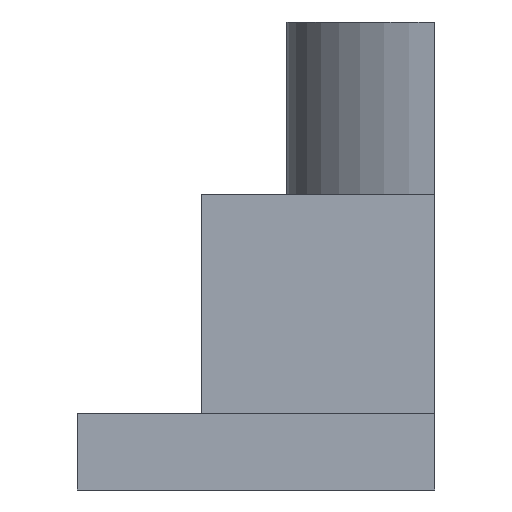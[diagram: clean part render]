
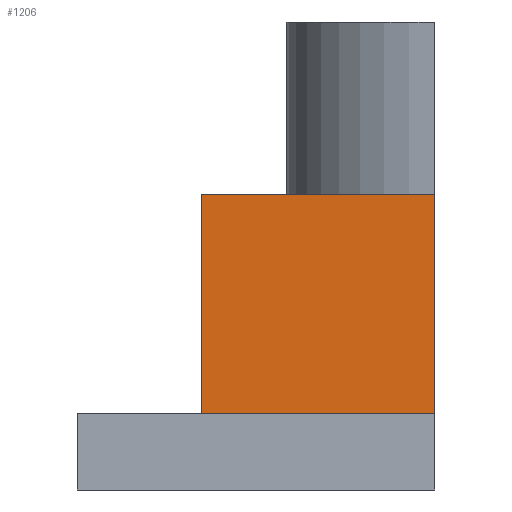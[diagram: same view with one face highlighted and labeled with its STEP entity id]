
A CAD part, left-side view. The second image highlights one B-rep face of the part: STEP entity #1206.
In plain terms, the highlighted planar face has unit normal (-1, 0, 0).
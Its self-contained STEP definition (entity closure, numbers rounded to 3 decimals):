
#44 = PLANE('',#45);
#45 = AXIS2_PLACEMENT_3D('',#46,#47,#48);
#46 = CARTESIAN_POINT('',(-10.75,-20.32,-1.2));
#47 = DIRECTION('',(0.,0.,1.));
#48 = DIRECTION('',(1.,0.,0.));
#71 = PLANE('',#72);
#72 = AXIS2_PLACEMENT_3D('',#73,#74,#75);
#73 = CARTESIAN_POINT('',(-26.75,-16.47,-5.));
#74 = DIRECTION('',(0.,1.,0.));
#75 = DIRECTION('',(0.,0.,1.));
#141 = VERTEX_POINT('',#142);
#142 = CARTESIAN_POINT('',(-8.75,-16.47,-1.2));
#161 = EDGE_CURVE('',#141,#162,#164,.T.);
#162 = VERTEX_POINT('',#163);
#163 = CARTESIAN_POINT('',(-8.75,-14.02,-1.2));
#164 = SURFACE_CURVE('',#165,(#169,#176),.PCURVE_S1.);
#165 = LINE('',#166,#167);
#166 = CARTESIAN_POINT('',(-8.75,-19.02,-1.2));
#167 = VECTOR('',#168,1.);
#168 = DIRECTION('',(0.,1.,0.));
#169 = PCURVE('',#44,#170);
#170 = DEFINITIONAL_REPRESENTATION('',(#171),#175);
#171 = LINE('',#172,#173);
#172 = CARTESIAN_POINT('',(2.,1.3));
#173 = VECTOR('',#174,1.);
#174 = DIRECTION('',(0.,1.));
#175 = ( GEOMETRIC_REPRESENTATION_CONTEXT(2) 
PARAMETRIC_REPRESENTATION_CONTEXT() REPRESENTATION_CONTEXT('2D SPACE',''
  ) );
#176 = PCURVE('',#177,#182);
#177 = PLANE('',#178);
#178 = AXIS2_PLACEMENT_3D('',#179,#180,#181);
#179 = CARTESIAN_POINT('',(-8.75,-19.02,-1.2));
#180 = DIRECTION('',(1.,0.,0.));
#181 = DIRECTION('',(0.,0.,1.));
#182 = DEFINITIONAL_REPRESENTATION('',(#183),#187);
#183 = LINE('',#184,#185);
#184 = CARTESIAN_POINT('',(0.,0.));
#185 = VECTOR('',#186,1.);
#186 = DIRECTION('',(0.,-1.));
#187 = ( GEOMETRIC_REPRESENTATION_CONTEXT(2) 
PARAMETRIC_REPRESENTATION_CONTEXT() REPRESENTATION_CONTEXT('2D SPACE',''
  ) );
#205 = PLANE('',#206);
#206 = AXIS2_PLACEMENT_3D('',#207,#208,#209);
#207 = CARTESIAN_POINT('',(-8.75,-14.02,-1.2));
#208 = DIRECTION('',(0.,1.,0.));
#209 = DIRECTION('',(0.,0.,1.));
#535 = EDGE_CURVE('',#141,#536,#538,.T.);
#536 = VERTEX_POINT('',#537);
#537 = CARTESIAN_POINT('',(-8.75,-16.47,1.1));
#538 = SURFACE_CURVE('',#539,(#543,#549),.PCURVE_S1.);
#539 = LINE('',#540,#541);
#540 = CARTESIAN_POINT('',(-8.75,-16.47,-3.1));
#541 = VECTOR('',#542,1.);
#542 = DIRECTION('',(0.,0.,1.));
#543 = PCURVE('',#71,#544);
#544 = DEFINITIONAL_REPRESENTATION('',(#545),#548);
#545 = B_SPLINE_CURVE_WITH_KNOTS('',1,(#546,#547),.UNSPECIFIED.,.F.,.F.,
  (2,2),(1.9,4.2),.PIECEWISE_BEZIER_KNOTS.);
#546 = CARTESIAN_POINT('',(3.8,18.));
#547 = CARTESIAN_POINT('',(6.1,18.));
#548 = ( GEOMETRIC_REPRESENTATION_CONTEXT(2) 
PARAMETRIC_REPRESENTATION_CONTEXT() REPRESENTATION_CONTEXT('2D SPACE',''
  ) );
#549 = PCURVE('',#177,#550);
#550 = DEFINITIONAL_REPRESENTATION('',(#551),#554);
#551 = B_SPLINE_CURVE_WITH_KNOTS('',1,(#552,#553),.UNSPECIFIED.,.F.,.F.,
  (2,2),(1.9,4.2),.PIECEWISE_BEZIER_KNOTS.);
#552 = CARTESIAN_POINT('',(0.,-2.55));
#553 = CARTESIAN_POINT('',(2.3,-2.55));
#554 = ( GEOMETRIC_REPRESENTATION_CONTEXT(2) 
PARAMETRIC_REPRESENTATION_CONTEXT() REPRESENTATION_CONTEXT('2D SPACE',''
  ) );
#571 = PLANE('',#572);
#572 = AXIS2_PLACEMENT_3D('',#573,#574,#575);
#573 = CARTESIAN_POINT('',(-8.75,-19.02,1.1));
#574 = DIRECTION('',(0.,0.,1.));
#575 = DIRECTION('',(1.,0.,0.));
#1162 = EDGE_CURVE('',#162,#1163,#1165,.T.);
#1163 = VERTEX_POINT('',#1164);
#1164 = CARTESIAN_POINT('',(-8.75,-14.02,1.1));
#1165 = SURFACE_CURVE('',#1166,(#1170,#1177),.PCURVE_S1.);
#1166 = LINE('',#1167,#1168);
#1167 = CARTESIAN_POINT('',(-8.75,-14.02,-1.2));
#1168 = VECTOR('',#1169,1.);
#1169 = DIRECTION('',(0.,0.,1.));
#1170 = PCURVE('',#205,#1171);
#1171 = DEFINITIONAL_REPRESENTATION('',(#1172),#1176);
#1172 = LINE('',#1173,#1174);
#1173 = CARTESIAN_POINT('',(0.,0.));
#1174 = VECTOR('',#1175,1.);
#1175 = DIRECTION('',(1.,0.));
#1176 = ( GEOMETRIC_REPRESENTATION_CONTEXT(2) 
PARAMETRIC_REPRESENTATION_CONTEXT() REPRESENTATION_CONTEXT('2D SPACE',''
  ) );
#1177 = PCURVE('',#177,#1178);
#1178 = DEFINITIONAL_REPRESENTATION('',(#1179),#1183);
#1179 = LINE('',#1180,#1181);
#1180 = CARTESIAN_POINT('',(0.,-5.));
#1181 = VECTOR('',#1182,1.);
#1182 = DIRECTION('',(1.,0.));
#1183 = ( GEOMETRIC_REPRESENTATION_CONTEXT(2) 
PARAMETRIC_REPRESENTATION_CONTEXT() REPRESENTATION_CONTEXT('2D SPACE',''
  ) );
#1206 = ADVANCED_FACE('',(#1207),#177,.F.);
#1207 = FACE_BOUND('',#1208,.F.);
#1208 = EDGE_LOOP('',(#1209,#1230,#1231,#1232));
#1209 = ORIENTED_EDGE('',*,*,#1210,.F.);
#1210 = EDGE_CURVE('',#536,#1163,#1211,.T.);
#1211 = SURFACE_CURVE('',#1212,(#1216,#1223),.PCURVE_S1.);
#1212 = LINE('',#1213,#1214);
#1213 = CARTESIAN_POINT('',(-8.75,-19.02,1.1));
#1214 = VECTOR('',#1215,1.);
#1215 = DIRECTION('',(0.,1.,0.));
#1216 = PCURVE('',#177,#1217);
#1217 = DEFINITIONAL_REPRESENTATION('',(#1218),#1222);
#1218 = LINE('',#1219,#1220);
#1219 = CARTESIAN_POINT('',(2.3,0.));
#1220 = VECTOR('',#1221,1.);
#1221 = DIRECTION('',(0.,-1.));
#1222 = ( GEOMETRIC_REPRESENTATION_CONTEXT(2) 
PARAMETRIC_REPRESENTATION_CONTEXT() REPRESENTATION_CONTEXT('2D SPACE',''
  ) );
#1223 = PCURVE('',#571,#1224);
#1224 = DEFINITIONAL_REPRESENTATION('',(#1225),#1229);
#1225 = LINE('',#1226,#1227);
#1226 = CARTESIAN_POINT('',(0.,0.));
#1227 = VECTOR('',#1228,1.);
#1228 = DIRECTION('',(0.,1.));
#1229 = ( GEOMETRIC_REPRESENTATION_CONTEXT(2) 
PARAMETRIC_REPRESENTATION_CONTEXT() REPRESENTATION_CONTEXT('2D SPACE',''
  ) );
#1230 = ORIENTED_EDGE('',*,*,#535,.F.);
#1231 = ORIENTED_EDGE('',*,*,#161,.T.);
#1232 = ORIENTED_EDGE('',*,*,#1162,.T.);
